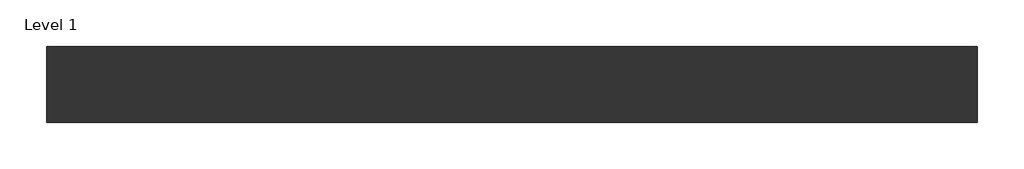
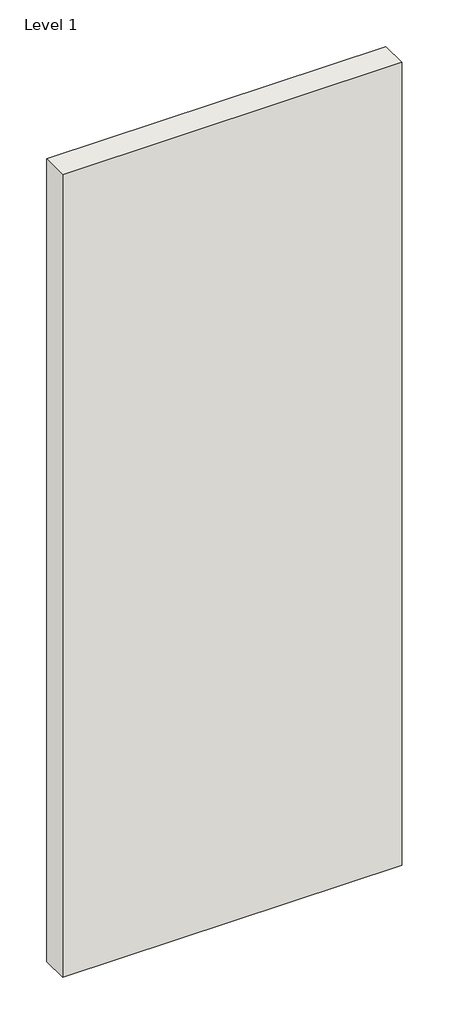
# One storey: 1 wall.
"""IFC4 building model written with IfcOpenShell, lengths in millimetres."""

from ifc_helpers import new_model, si_unit, origin, origin_with_axes, place, context, project, spatial, polyline, outline, extrude, element, save

model = new_model("IFC4")

# Units and contexts
model_context = context("Model", 3, world=origin())
ifc_project = project(units=[si_unit("LENGTHUNIT", "METRE", prefix="MILLI")], contexts=[model_context])

# Site, building, storey
site = spatial("IfcSite", under=ifc_project)
building = spatial("IfcBuilding", under=site)
storey = spatial("IfcBuildingStorey", under=building, Name="Level 1", Elevation=0.0)

# Wall
placement = place(None, origin())
element("IfcWall", 1, ObjectType="Tabique Simple – Placo® 98(48) 2xBA13 + 48LM + 2xBA13 c/600 - 51,9 dBA", at=placement, inside=storey, context=model_context, shape_type="SweptSolid", body=[
    extrude(outline(polyline([(-28676.4711674, -79774.3970389), (-29876.4711674, -79774.3970389), (-29876.4711674, -79676.3970389), (-28676.4711674, -79676.3970389), (-28676.4711674, -79774.3970389)])), origin_with_axes(), (0.0, 0.0, 1.0), 3000.0),
])

save(model, "model.ifc")
